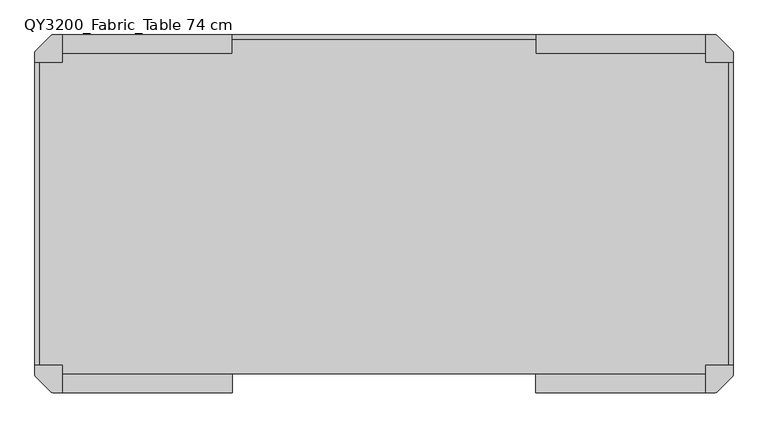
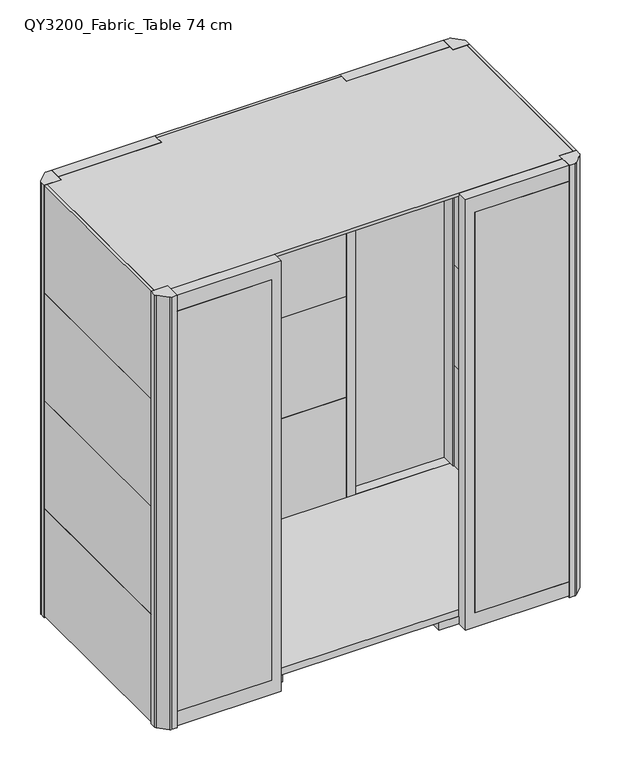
"""IFC4 building model written with IfcOpenShell, lengths in millimetres: furniture geometry, Qyos_200 : QY3200_Fabric_Table 74 cm."""

from ifc_helpers import new_model, si_unit, point, frame, frame_2d, origin, origin_with_axes, place, context, project, spatial, polyline, circle_curve, trimmed, segment, composite_curve, outline, extrude, source, transform, mapped, element, save
from ifc_brep_helpers import plane_surface, cylinder_surface, advanced_brep


def qy3200_fabric_table_74_cm_dd0d3239(model_context):
    return source(origin(), model_context, "Body", "SolidModel", [
        advanced_brep(
        [(853.8585356, 382.0, 0.0), (900.1414644, 382.0, 0.0), (877.0, 382.0, 0.0), (853.8585356, 382.0, 7.0), (900.1414644, 382.0, 7.0), (867.3615446, 382.0, 7.0), (886.6384554, 382.0, 7.0), (867.3615446, 382.0, 17.0), (886.6384554, 382.0, 17.0), (877.0, 382.0, 17.0)],
        [
            (0, 1, circle_curve(frame((877.0, 382.0, 0.0), z_axis=(0.0, 0.0, -1.0), x_axis=(1.0, 0.0, 0.0)), 23.1414644)),
            (1, 2),
            (2, 0),
            (1, 0, circle_curve(frame((877.0, 382.0, 0.0), z_axis=(0.0, 0.0, -1.0), x_axis=(1.0, 0.0, 0.0)), 23.1414644)),
            (3, 4, circle_curve(frame((877.0, 382.0, 7.0), z_axis=(0.0, 0.0, -1.0), x_axis=(1.0, 0.0, 0.0)), 23.1414644)),
            (4, 1),
            (0, 3),
            (4, 3, circle_curve(frame((877.0, 382.0, 7.0), z_axis=(0.0, 0.0, -1.0), x_axis=(1.0, 0.0, 0.0)), 23.1414644)),
            (5, 6, circle_curve(frame((877.0, 382.0, 7.0), z_axis=(0.0, 0.0, -1.0), x_axis=(1.0, 0.0, 0.0)), 9.6384554)),
            (6, 4),
            (3, 5),
            (6, 5, circle_curve(frame((877.0, 382.0, 7.0), z_axis=(0.0, 0.0, -1.0), x_axis=(1.0, 0.0, 0.0)), 9.6384554)),
            (7, 8, circle_curve(frame((877.0, 382.0, 17.0), z_axis=(0.0, 0.0, -1.0), x_axis=(1.0, 0.0, 0.0)), 9.6384554)),
            (8, 6),
            (5, 7),
            (8, 7, circle_curve(frame((877.0, 382.0, 17.0), z_axis=(0.0, 0.0, -1.0), x_axis=(1.0, 0.0, 0.0)), 9.6384554)),
            (9, 8),
            (7, 9),
        ],
        [
            plane_surface(frame((877.0, 382.0, 0.0), z_axis=(0.0, 0.0, -1.0), x_axis=(1.0, 0.0, 0.0))),
            cylinder_surface(frame((877.0, 382.0, 1997.4144888), z_axis=(0.0, 0.0, 1.0), x_axis=(1.0, 0.0, 0.0)), 23.1414644),
            plane_surface(frame((877.0, 382.0, 7.0), z_axis=(0.0, 0.0, 1.0), x_axis=(1.0, 0.0, 0.0))),
            cylinder_surface(frame((877.0, 382.0, 1997.4144888), z_axis=(0.0, 0.0, 1.0), x_axis=(1.0, 0.0, 0.0)), 9.6384554),
            plane_surface(frame((877.0, 382.0, 17.0), z_axis=(0.0, 0.0, 1.0), x_axis=(1.0, 0.0, 0.0))),
        ],
        [
            (0, [[1, 2, 3]]),
            (0, [[4, -3, -2]]),
            (1, [[5, 6, -1, 7]]),
            (1, [[8, -7, -4, -6]]),
            (2, [[9, 10, -5, 11]]),
            (2, [[12, -11, -8, -10]]),
            (3, [[13, 14, -9, 15]]),
            (3, [[16, -15, -12, -14]]),
            (4, [[17, -13, 18]]),
            (4, [[-18, -16, -17]]),
        ],
    ),
        extrude(outline(composite_curve([segment(trimmed(circle_curve(frame_2d((877.0, 382.0)), 23.1414644), [point((853.8585356, 382.0))], [point((900.1414644, 382.0))], False, "CARTESIAN"), True, "CONTINUOUS"), segment(trimmed(circle_curve(frame_2d((877.0, 382.0)), 23.1414644), [point((900.1414644, 382.0))], [point((853.8585356, 382.0))], False, "CARTESIAN"), True, "CONTINUOUS")], self_intersect=False)), origin_with_axes(), (0.0, 0.0, 1.0), 7.0),
        extrude(outline(composite_curve([segment(polyline([(-945.0, 445.0), (-1025.0, 445.0), (-1025.0, 472.5536246)]), True, "CONTINUOUS"), segment(trimmed(circle_curve(frame_2d((-1013.0024364, 472.3118252)), 12.0), [point((-1025.0, 472.5536246))], [point((-1021.7960176, 480.4771745))], False, "CARTESIAN"), True, "CONTINUOUS"), segment(trimmed(circle_curve(frame_2d((-443.4303831, -56.568803)), 789.2560985), [point((-1021.7960176, 480.4771745))], [point((-980.4763607, 521.7968315))], False, "CARTESIAN"), True, "CONTINUOUS"), segment(trimmed(circle_curve(frame_2d((-972.3110114, 513.0032502)), 12.0), [point((-980.4763607, 521.7968315))], [point((-972.5902872, 525.0))], False, "CARTESIAN"), True, "CONTINUOUS"), segment(polyline([(-972.5902872, 525.0), (-945.0, 525.0), (-945.0, 445.0)]), True, "CONTINUOUS")], self_intersect=False)), origin_with_axes(), (0.0, 0.0, 1.0), 2202.1),
        extrude(outline(composite_curve([segment(polyline([(945.0, 445.0), (945.0, 525.0), (972.5536246, 525.0)]), True, "CONTINUOUS"), segment(trimmed(circle_curve(frame_2d((972.3118252, 513.0024364)), 12.0), [point((972.5536246, 525.0))], [point((980.4771745, 521.7960176))], False, "CARTESIAN"), True, "CONTINUOUS"), segment(trimmed(circle_curve(frame_2d((443.431197, -56.5696169)), 789.2560985), [point((980.4771745, 521.7960176))], [point((1021.7968315, 480.4763607))], False, "CARTESIAN"), True, "CONTINUOUS"), segment(trimmed(circle_curve(frame_2d((1013.0032502, 472.3110114)), 12.0), [point((1021.7968315, 480.4763607))], [point((1025.0, 472.5902872))], False, "CARTESIAN"), True, "CONTINUOUS"), segment(polyline([(1025.0, 472.5902872), (1025.0, 445.0), (945.0, 445.0)]), True, "CONTINUOUS")], self_intersect=False)), origin_with_axes(), (0.0, 0.0, 1.0), 2202.1),
        extrude(outline(composite_curve([segment(polyline([(945.0, -445.0), (1025.0, -445.0), (1025.0, -472.5536246)]), True, "CONTINUOUS"), segment(trimmed(circle_curve(frame_2d((1013.0024364, -472.3118252)), 12.0), [point((1025.0, -472.5536246))], [point((1021.7960176, -480.4771745))], False, "CARTESIAN"), True, "CONTINUOUS"), segment(trimmed(circle_curve(frame_2d((443.4303831, 56.568803)), 789.2560985), [point((1021.7960176, -480.4771745))], [point((980.4763607, -521.7968315))], False, "CARTESIAN"), True, "CONTINUOUS"), segment(trimmed(circle_curve(frame_2d((972.3110114, -513.0032502)), 12.0), [point((980.4763607, -521.7968315))], [point((972.5902872, -525.0))], False, "CARTESIAN"), True, "CONTINUOUS"), segment(polyline([(972.5902872, -525.0), (945.0, -525.0), (945.0, -445.0)]), True, "CONTINUOUS")], self_intersect=False)), origin_with_axes(), (0.0, 0.0, 1.0), 2202.1),
        extrude(outline(composite_curve([segment(polyline([(-945.0, -445.0), (-945.0, -525.0), (-972.5536246, -525.0)]), True, "CONTINUOUS"), segment(trimmed(circle_curve(frame_2d((-972.3118252, -513.0024364)), 12.0), [point((-972.5536246, -525.0))], [point((-980.4771745, -521.7960176))], False, "CARTESIAN"), True, "CONTINUOUS"), segment(trimmed(circle_curve(frame_2d((-443.431197, 56.5696169)), 789.2560985), [point((-980.4771745, -521.7960176))], [point((-1021.7968315, -480.4763607))], False, "CARTESIAN"), True, "CONTINUOUS"), segment(trimmed(circle_curve(frame_2d((-1013.0032502, -472.3110114)), 12.0), [point((-1021.7968315, -480.4763607))], [point((-1025.0, -472.5902872))], False, "CARTESIAN"), True, "CONTINUOUS"), segment(polyline([(-1025.0, -472.5902872), (-1025.0, -445.0), (-945.0, -445.0)]), True, "CONTINUOUS")], self_intersect=False)), origin_with_axes(), (0.0, 0.0, 1.0), 2202.1),
        extrude(outline(polyline([(-445.0, 470.0), (-445.0, 511.0), (445.0, 511.0), (445.0, 470.0), (945.0, 470.0), (945.0, 445.0), (1011.0, 445.0), (1011.0, -445.0), (945.0, -445.0), (945.0, -469.9956819), (-945.0, -469.9956819), (-945.0, -445.0), (-1011.0, -445.0), (-1011.0, 445.0), (-945.0, 445.0), (-945.0, 470.0), (-445.0, 470.0)])), frame((0.0, 0.0, 2186.1), z_axis=(0.0, 0.0, 1.0), x_axis=(1.0, 0.0, 0.0)), (0.0, 0.0, 1.0), 16.0),
        extrude(outline(polyline([(-1025.0, -445.0), (-1025.0, 445.0), (-1011.0, 445.0), (-1011.0, -445.0), (-1025.0, -445.0)])), frame((0.0, 0.0, 1654.0116287), z_axis=(0.0, 0.0, 1.0), x_axis=(1.0, 0.0, 0.0)), (0.0, 0.0, 1.0), 548.0883713),
        extrude(outline(polyline([(1025.0, -445.0), (1011.0, -445.0), (1011.0, 445.0), (1025.0, 445.0), (1025.0, -445.0)])), frame((0.0, 0.0, 1654.0116287), z_axis=(0.0, 0.0, 1.0), x_axis=(1.0, 0.0, 0.0)), (0.0, 0.0, 1.0), 548.0883713),
        extrude(outline(polyline([(445.0557256, 525.0), (445.0557256, 511.0), (-445.0, 511.0), (-445.0, 525.0), (445.0557256, 525.0)])), frame((0.0, 0.0, 1654.0116287), z_axis=(0.0, 0.0, 1.0), x_axis=(1.0, 0.0, 0.0)), (0.0, 0.0, 1.0), 548.0883713),
        extrude(outline(polyline([(-945.0, 525.0), (-490.0089845, 525.0), (-490.0089845, 520.0), (-945.0, 520.0), (-945.0, 525.0)])), frame((0.0, 0.0, 82.0), z_axis=(0.0, 0.0, 1.0), x_axis=(1.0, 0.0, 0.0)), (0.0, 0.0, 1.0), 2040.1),
        extrude(outline(polyline([(490.0089845, 525.0), (945.0, 525.0), (945.0, 520.0), (490.0089845, 520.0), (490.0089845, 525.0)])), frame((0.0, 0.0, 82.0), z_axis=(0.0, 0.0, 1.0), x_axis=(1.0, 0.0, 0.0)), (0.0, 0.0, 1.0), 2040.1),
        extrude(outline(polyline([(2122.1, -490.0089845), (82.0, -490.0089845), (82.0, -945.0), (10.0, -945.0), (10.0, -445.0), (2202.1, -445.0), (2202.1, -945.0), (2122.1, -945.0), (2122.1, -490.0089845)])), frame((0.0, 469.9956819, 0.0), z_axis=(0.0, 1.0, 0.0), x_axis=(0.0, 0.0, 1.0)), (0.0, 0.0, 1.0), 55.0043181),
        extrude(outline(polyline([(2122.1, 490.0089845), (2122.1, 945.0), (2202.1, 945.0), (2202.1, 445.0), (10.0, 445.0), (10.0, 945.0), (82.0, 945.0), (82.0, 490.0089845), (2122.1, 490.0089845)])), frame((0.0, 469.9956819, 0.0), z_axis=(0.0, 1.0, 0.0), x_axis=(0.0, 0.0, 1.0)), (0.0, 0.0, 1.0), 55.0043181),
        extrude(outline(polyline([(-490.0089845, -525.0), (-945.0, -525.0), (-945.0, -520.0), (-490.0089845, -520.0), (-490.0089845, -525.0)])), frame((0.0, 0.0, 82.0), z_axis=(0.0, 0.0, 1.0), x_axis=(1.0, 0.0, 0.0)), (0.0, 0.0, 1.0), 2040.1),
        extrude(outline(polyline([(945.0, -525.0), (490.0089845, -525.0), (490.0089845, -520.0), (945.0, -520.0), (945.0, -525.0)])), frame((0.0, 0.0, 82.0), z_axis=(0.0, 0.0, 1.0), x_axis=(1.0, 0.0, 0.0)), (0.0, 0.0, 1.0), 2040.1),
        extrude(outline(polyline([(-857.0, -469.9956819), (-897.0, -469.9956819), (-897.0, 470.0), (-857.0, 470.0), (-857.0, -469.9956819)])), frame((0.0, 0.0, 10.0), z_axis=(0.0, 0.0, 1.0), x_axis=(1.0, 0.0, 0.0)), (0.0, 0.0, 1.0), 37.0),
        extrude(outline(polyline([(-405.0, -469.9956819), (-445.0, -469.9956819), (-445.0, 470.0), (-405.0, 470.0), (-405.0, -469.9956819)])), frame((0.0, 0.0, 10.0), z_axis=(0.0, 0.0, 1.0), x_axis=(1.0, 0.0, 0.0)), (0.0, 0.0, 1.0), 37.0),
        extrude(outline(polyline([(897.0, -469.9956819), (857.0, -469.9956819), (857.0, 470.0), (897.0, 470.0), (897.0, -469.9956819)])), frame((0.0, 0.0, 10.0), z_axis=(0.0, 0.0, 1.0), x_axis=(1.0, 0.0, 0.0)), (0.0, 0.0, 1.0), 37.0),
        extrude(outline(polyline([(349.5486306, 470.0), (445.0557256, 470.0), (445.0557256, -469.9956819), (349.5486306, -469.9956819), (349.5486306, 470.0)])), frame((0.0, 0.0, 10.0), z_axis=(0.0, 0.0, 1.0), x_axis=(1.0, 0.0, 0.0)), (0.0, 0.0, 1.0), 37.0),
        extrude(outline(polyline([(2122.1, -490.0089845), (82.0, -490.0089845), (82.0, -945.0), (10.0, -945.0), (10.0, -445.0), (2202.1, -445.0), (2202.1, -945.0), (2122.1, -945.0), (2122.1, -490.0089845)])), frame((0.0, -525.0, 0.0), z_axis=(0.0, 1.0, 0.0), x_axis=(0.0, 0.0, 1.0)), (0.0, 0.0, 1.0), 55.0043181),
        extrude(outline(polyline([(2122.1, 490.0089845), (2122.1, 945.0), (2202.1, 945.0), (2202.1, 445.0), (10.0, 445.0), (10.0, 945.0), (82.0, 945.0), (82.0, 490.0089845), (2122.1, 490.0089845)])), frame((0.0, -525.0, 0.0), z_axis=(0.0, 1.0, 0.0), x_axis=(0.0, 0.0, 1.0)), (0.0, 0.0, 1.0), 55.0043181),
        extrude(outline(polyline([(-951.0, 445.0), (-945.0, 445.0), (-945.0, 470.0), (945.0, 470.0), (945.0, 445.0), (951.0, 445.0), (951.0, -445.0), (945.0, -445.0), (945.0, -469.9956819), (-945.0, -469.9956819), (-945.0, -445.0), (-951.0, -445.0), (-951.0, 445.0)])), frame((0.0, 0.0, 47.0), z_axis=(0.0, 0.0, 1.0), x_axis=(1.0, 0.0, 0.0)), (0.0, 0.0, 1.0), 35.0),
        extrude(outline(polyline([(970.0, -444.9498873), (951.0, -444.9498873), (951.0, 445.0024364), (970.0, 445.0024364), (970.0, -444.9498873)])), frame((0.0, 0.0, 1617.9823403), z_axis=(0.0, 0.0, 1.0), x_axis=(1.0, 0.0, 0.0)), (0.0, 0.0, 1.0), 504.1176597),
        extrude(outline(polyline([(-970.0, -445.0), (-970.0, 445.0), (-951.0, 445.0), (-951.0, -445.0), (-970.0, -445.0)])), frame((0.0, 0.0, 1617.9823403), z_axis=(0.0, 0.0, 1.0), x_axis=(1.0, 0.0, 0.0)), (0.0, 0.0, 1.0), 504.1176597),
        extrude(outline(polyline([(-445.0, 470.0), (-445.0, 489.0), (445.0557256, 489.0), (445.0557256, 470.0), (-445.0, 470.0)])), frame((0.0, 0.0, 1617.9823403), z_axis=(0.0, 0.0, 1.0), x_axis=(1.0, 0.0, 0.0)), (0.0, 0.0, 1.0), 504.1176597),
        extrude(outline(polyline([(970.0, -445.0), (951.0, -445.0), (951.0, 445.0), (970.0, 445.0), (970.0, -445.0)])), frame((0.0, 0.0, 1106.0116287), z_axis=(0.0, 0.0, 1.0), x_axis=(1.0, 0.0, 0.0)), (0.0, 0.0, 1.0), 511.9707116),
        extrude(outline(polyline([(-970.0, -445.0), (-970.0, 445.0), (-951.0, 445.0), (-951.0, -445.0), (-970.0, -445.0)])), frame((0.0, 0.0, 1106.0116287), z_axis=(0.0, 0.0, 1.0), x_axis=(1.0, 0.0, 0.0)), (0.0, 0.0, 1.0), 511.9707116),
        extrude(outline(polyline([(-445.0, 470.0), (-445.0, 489.0), (445.0557256, 489.0), (445.0557256, 470.0), (-445.0, 470.0)])), frame((0.0, 0.0, 1106.0116287), z_axis=(0.0, 0.0, 1.0), x_axis=(1.0, 0.0, 0.0)), (0.0, 0.0, 1.0), 511.9707116),
        extrude(outline(polyline([(970.0, -445.0), (951.0, -445.0), (951.0, 445.0), (970.0, 445.0), (970.0, -445.0)])), frame((0.0, 0.0, 593.9823403), z_axis=(0.0, 0.0, 1.0), x_axis=(1.0, 0.0, 0.0)), (0.0, 0.0, 1.0), 512.0292884),
        extrude(outline(polyline([(-970.0, -445.0), (-970.0, 445.0), (-951.0, 445.0), (-951.0, -445.0), (-970.0, -445.0)])), frame((0.0, 0.0, 593.9823403), z_axis=(0.0, 0.0, 1.0), x_axis=(1.0, 0.0, 0.0)), (0.0, 0.0, 1.0), 512.0292884),
        extrude(outline(polyline([(-445.0, 470.0), (-445.0, 489.0), (445.0557256, 489.0), (445.0557256, 470.0), (-445.0, 470.0)])), frame((0.0, 0.0, 593.9823403), z_axis=(0.0, 0.0, 1.0), x_axis=(1.0, 0.0, 0.0)), (0.0, 0.0, 1.0), 512.0292884),
        extrude(outline(polyline([(970.0, -445.0), (951.0, -445.0), (951.0, 445.0), (970.0, 445.0), (970.0, -445.0)])), frame((0.0, 0.0, 77.0), z_axis=(0.0, 0.0, 1.0), x_axis=(1.0, 0.0, 0.0)), (0.0, 0.0, 1.0), 516.9823403),
        extrude(outline(polyline([(-970.0, -445.0), (-970.0, 445.0), (-951.0, 445.0), (-951.0, -445.0), (-970.0, -445.0)])), frame((0.0, 0.0, 77.0), z_axis=(0.0, 0.0, 1.0), x_axis=(1.0, 0.0, 0.0)), (0.0, 0.0, 1.0), 516.9823403),
        extrude(outline(polyline([(-445.0, 470.0), (-445.0, 489.0), (445.0557256, 489.0), (445.0557256, 470.0), (-445.0, 470.0)])), frame((0.0, 0.0, 77.0), z_axis=(0.0, 0.0, 1.0), x_axis=(1.0, 0.0, 0.0)), (0.0, 0.0, 1.0), 516.9823403),
        extrude(outline(polyline([(-1025.0, -445.0), (-1025.0, 445.0), (-1011.0, 445.0), (-1011.0, -445.0), (-1025.0, -445.0)])), frame((0.0, 0.0, 1106.0116287), z_axis=(0.0, 0.0, 1.0), x_axis=(1.0, 0.0, 0.0)), (0.0, 0.0, 1.0), 548.0),
        extrude(outline(polyline([(1025.0, -445.0), (1011.0, -445.0), (1011.0, 445.0), (1025.0, 445.0), (1025.0, -445.0)])), frame((0.0, 0.0, 1106.0116287), z_axis=(0.0, 0.0, 1.0), x_axis=(1.0, 0.0, 0.0)), (0.0, 0.0, 1.0), 548.0),
        extrude(outline(polyline([(445.0557256, 525.0), (445.0557256, 511.0), (-445.0, 511.0), (-445.0, 525.0), (445.0557256, 525.0)])), frame((0.0, 0.0, 1106.0116287), z_axis=(0.0, 0.0, 1.0), x_axis=(1.0, 0.0, 0.0)), (0.0, 0.0, 1.0), 548.0),
        extrude(outline(polyline([(-1025.0, -445.0), (-1025.0, 445.0), (-1011.0, 445.0), (-1011.0, -445.0), (-1025.0, -445.0)])), frame((0.0, 0.0, 558.0116287), z_axis=(0.0, 0.0, 1.0), x_axis=(1.0, 0.0, 0.0)), (0.0, 0.0, 1.0), 548.0),
        extrude(outline(polyline([(1025.0, -445.0), (1011.0, -445.0), (1011.0, 445.0), (1025.0, 445.0), (1025.0, -445.0)])), frame((0.0, 0.0, 558.0116287), z_axis=(0.0, 0.0, 1.0), x_axis=(1.0, 0.0, 0.0)), (0.0, 0.0, 1.0), 548.0),
        extrude(outline(polyline([(445.0557256, 525.0), (445.0557256, 511.0), (-445.0, 511.0), (-445.0, 525.0), (445.0557256, 525.0)])), frame((0.0, 0.0, 558.0116287), z_axis=(0.0, 0.0, 1.0), x_axis=(1.0, 0.0, 0.0)), (0.0, 0.0, 1.0), 548.0),
        extrude(outline(polyline([(-1025.0, -445.0), (-1025.0, 445.0), (-1011.0, 445.0), (-1011.0, -445.0), (-1025.0, -445.0)])), frame((0.0, 0.0, 10.0), z_axis=(0.0, 0.0, 1.0), x_axis=(1.0, 0.0, 0.0)), (0.0, 0.0, 1.0), 548.0116287),
        extrude(outline(polyline([(1025.0, -445.0), (1011.0, -445.0), (1011.0, 445.0), (1025.0, 445.0), (1025.0, -445.0)])), frame((0.0, 0.0, 10.0), z_axis=(0.0, 0.0, 1.0), x_axis=(1.0, 0.0, 0.0)), (0.0, 0.0, 1.0), 548.0116287),
        extrude(outline(polyline([(445.0557256, 525.0), (445.0557256, 511.0), (-445.0, 511.0), (-445.0, 525.0), (445.0557256, 525.0)])), frame((0.0, 0.0, 10.0), z_axis=(0.0, 0.0, 1.0), x_axis=(1.0, 0.0, 0.0)), (0.0, 0.0, 1.0), 548.0116287),
    ])


if __name__ == "__main__":
    model = new_model("IFC4")
    model_context = context("Model", 3, world=origin())
    ifc_project = project(units=[si_unit("LENGTHUNIT", "METRE", prefix="MILLI")], contexts=[model_context])
    site = spatial("IfcSite", under=ifc_project)
    building = spatial("IfcBuilding", under=site)
    placement = place(None, origin())
    qy3200_fabric_table_74_cm_shape = qy3200_fabric_table_74_cm_dd0d3239(model_context)
    element("IfcFurniture", 1, ObjectType="Qyos_200 : QY3200_Fabric_Table 74 cm", at=placement, inside=building, context=model_context, shape_type="MappedRepresentation", body=[
        mapped(qy3200_fabric_table_74_cm_shape, transform((0.0, 0.0, 0.0), x_axis=(1.0, 0.0, 0.0), y_axis=(0.0, 1.0, 0.0), z_axis=(0.0, 0.0, 1.0))),
    ])
    save(model, "model.ifc")
